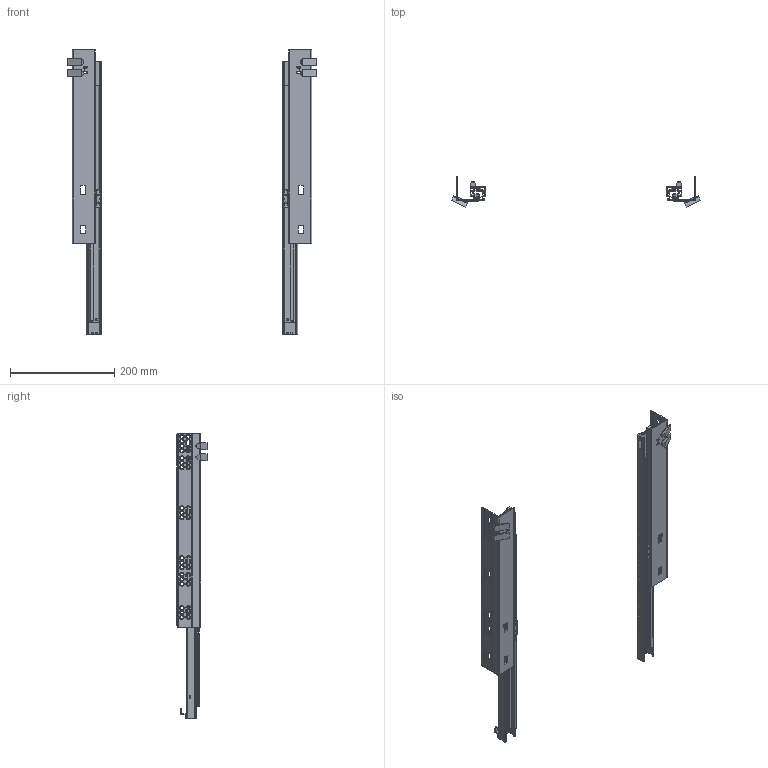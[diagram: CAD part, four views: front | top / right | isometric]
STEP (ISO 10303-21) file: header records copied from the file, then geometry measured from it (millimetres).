
FILE_DESCRIPTION (( 'STEP AP203' ), '1' );
FILE_NAME ('728MCFH(19)-540-TM 客人用图.STEP', '2021-02-24T06:10:48', ( '微软用户' ), ( '微软中国' ), 'SwSTEP 2.0', 'SolidWorks 2014', '' );
FILE_SCHEMA (( 'CONFIG_CONTROL_DESIGN' ));
Length unit declared in the file: millimetre
Products named in the file (15): 镜向728CFH(19)-550-GDG-R-TM   固定轨（右） 客人用图; 镜向728MCFH（16）-540-HDG-R  活动轨（右） 客人用图; 镜向708-1 尾勾（常规三节轨用）; 镜向728MCFH(16)-540-HDG-R 活动轨组件（右）客人用图; 728MCFH(19)-540-TM  客人用图; 728CFH(19)-550-GDG-R-TM   固定轨（右） 客人用图; 728MCFH（16）-540-HDG-R  活动轨（右） 客人用图; 708-1 尾勾（常规三节轨用）; 噩砃728 笢寢爾え; 728MCFH(16)-540-HDG-R 活动轨组件（右）客人用图; 镜向728CFH-550-R  中轨（右）客人用图; 镜向728CFH-550-ZG-R  中轨组件（右） 客人用图; 728CFH-550-R  中轨（右）客人用图; 728 笢寢爾え; 728CFH-550-ZG-R  中轨组件（右） 客人用图
Assembly tree (14 placements, depth 3):
  728MCFH(19)-540-TM  客人用图
    728CFH(19)-550-GDG-R-TM   固定轨（右） 客人用图
    728MCFH(16)-540-HDG-R 活动轨组件（右）客人用图
      728MCFH（16）-540-HDG-R  活动轨（右） 客人用图
      708-1 尾勾（常规三节轨用）
    728CFH-550-ZG-R  中轨组件（右） 客人用图
      728CFH-550-R  中轨（右）客人用图
      728 笢寢爾え
    镜向728CFH(19)-550-GDG-R-TM   固定轨（右） 客人用图
    镜向728MCFH(16)-540-HDG-R 活动轨组件（右）客人用图
      镜向728MCFH（16）-540-HDG-R  活动轨（右） 客人用图
      镜向708-1 尾勾（常规三节轨用）
    镜向728CFH-550-ZG-R  中轨组件（右） 客人用图
      镜向728CFH-550-R  中轨（右）客人用图
      噩砃728 笢寢爾え
Bounding box: 478.47 x 57.88 x 547.4 mm (x, y, z)
Volume: 305215.7 mm3; surface area: 434226.1 mm2
Topology: 14 solids, 14 shells, 1732 faces, 4388 edges, 2766 vertices
Faces by surface type: plane 780, cylinder 614, cone 296, bspline 38, torus 4
Entity records: 55753 total; most frequent: CARTESIAN_POINT 11177, DIRECTION 9296, ORIENTED_EDGE 8776, EDGE_CURVE 4388, AXIS2_PLACEMENT_3D 3335, VERTEX_POINT 2766, VECTOR 2626, LINE 2626
